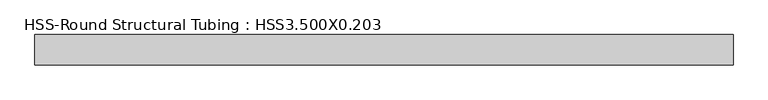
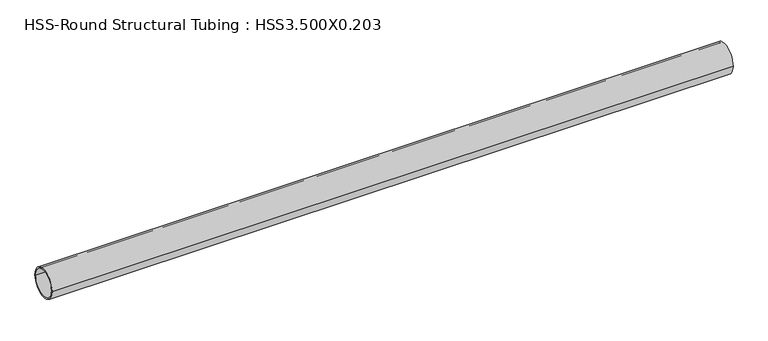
"""IFC4 building model written with IfcOpenShell, lengths in millimetres: member geometry, HSS-Round Structural Tubing : HSS3.500X0.203."""

from ifc_helpers import new_model, si_unit, point, frame, origin, origin_2d, place, context, project, spatial, circle_curve, trimmed, segment, composite_curve, outline, extrude, source, transform, mapped, element, save


def hss_round_structural_tubing_hss3_500x0_203_c34e580b(model_context):
    return source(origin(), model_context, "Body", "SweptSolid", [
        extrude(outline(composite_curve([segment(trimmed(circle_curve(origin_2d(), 44.45), [point((-44.45, 0.0))], [point((44.45, 0.0))], False, "CARTESIAN"), True, "CONTINUOUS"), segment(trimmed(circle_curve(origin_2d(), 44.45), [point((44.45, 0.0))], [point((-44.45, 0.0))], False, "CARTESIAN"), True, "CONTINUOUS")], self_intersect=False), holes=[composite_curve([segment(trimmed(circle_curve(origin_2d(), 39.6494), [point((39.6494, 0.0))], [point((-39.6494, 0.0))], True, "CARTESIAN"), True, "CONTINUOUS"), segment(trimmed(circle_curve(origin_2d(), 39.6494), [point((-39.6494, 0.0))], [point((39.6494, 0.0))], True, "CARTESIAN"), True, "CONTINUOUS")], self_intersect=False)]), frame((-1017.1251792, 0.0, 0.0), z_axis=(1.0, 0.0, 0.0), x_axis=(0.0, 1.0, 0.0)), (0.0, 0.0, 1.0), 2034.2503585),
    ])


if __name__ == "__main__":
    model = new_model("IFC4")
    model_context = context("Model", 3, world=origin())
    ifc_project = project(units=[si_unit("LENGTHUNIT", "METRE", prefix="MILLI")], contexts=[model_context])
    site = spatial("IfcSite", under=ifc_project)
    building = spatial("IfcBuilding", under=site)
    placement = place(None, origin())
    hss_round_structural_tubing_hss3_500x0_203_shape = hss_round_structural_tubing_hss3_500x0_203_c34e580b(model_context)
    element("IfcMember", 1, ObjectType="HSS-Round Structural Tubing : HSS3.500X0.203", at=placement, inside=building, context=model_context, shape_type="MappedRepresentation", body=[
        mapped(hss_round_structural_tubing_hss3_500x0_203_shape, transform((0.0, 0.0, 0.0), x_axis=(1.0, 0.0, 0.0), y_axis=(0.0, 1.0, 0.0), z_axis=(0.0, 0.0, 1.0))),
    ])
    save(model, "model.ifc")
